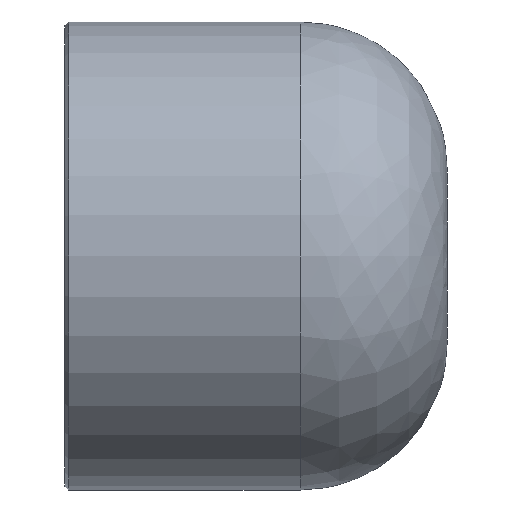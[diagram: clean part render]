
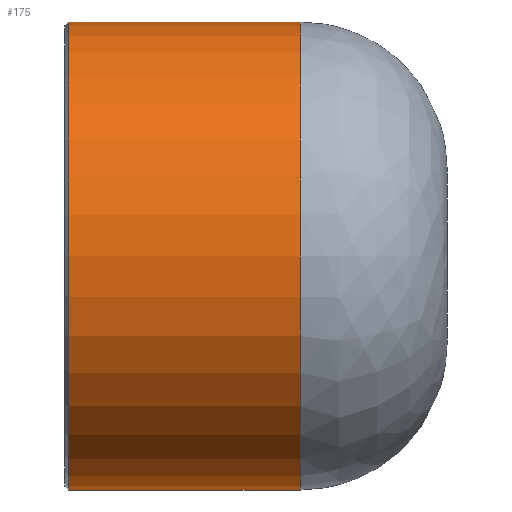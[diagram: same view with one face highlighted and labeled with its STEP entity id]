
A CAD part, front view. The second image highlights one B-rep face of the part: STEP entity #175.
In plain terms, the highlighted cylindrical face has radius 30.628 mm (diameter 61.255 mm), a full revolution.
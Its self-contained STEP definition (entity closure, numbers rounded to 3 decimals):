
#144=CARTESIAN_POINT('',(0.5,30.628,0.));
#145=VERTEX_POINT('',#144);
#146=CARTESIAN_POINT('',(0.5,0.0,0.0));
#147=DIRECTION('',(-1.0,0.0,0.0));
#148=DIRECTION('',(0.0,-1.0,0.0));
#149=AXIS2_PLACEMENT_3D('',#146,#147,#148);
#150=CIRCLE('',#149,30.628);
#151=EDGE_CURVE('',#145,#145,#150,.T.);
#156=CARTESIAN_POINT('',(15.4,0.0,0.0));
#157=DIRECTION('',(1.0,0.0,0.0));
#158=DIRECTION('',(0.0,1.0,0.0));
#159=AXIS2_PLACEMENT_3D('',#156,#157,#158);
#160=CYLINDRICAL_SURFACE('',#159,30.628);
#161=CARTESIAN_POINT('',(30.8,30.628,0.0));
#162=VERTEX_POINT('',#161);
#163=CARTESIAN_POINT('',(30.8,0.0,0.0));
#164=DIRECTION('',(1.0,0.0,0.0));
#165=DIRECTION('',(0.0,1.0,0.0));
#166=AXIS2_PLACEMENT_3D('',#163,#164,#165);
#167=CIRCLE('',#166,30.628);
#168=EDGE_CURVE('',#162,#162,#167,.T.);
#169=ORIENTED_EDGE('',*,*,#168,.F.);
#170=EDGE_LOOP('',(#169));
#171=FACE_OUTER_BOUND('',#170,.T.);
#172=ORIENTED_EDGE('',*,*,#151,.F.);
#173=EDGE_LOOP('',(#172));
#174=FACE_BOUND('',#173,.T.);
#175=ADVANCED_FACE('',(#171,#174),#160,.T.);
